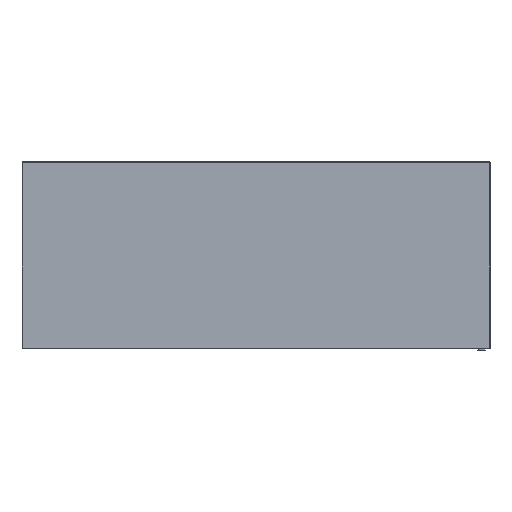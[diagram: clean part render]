
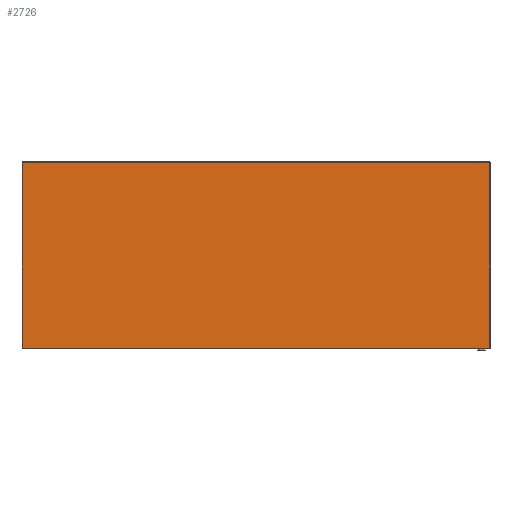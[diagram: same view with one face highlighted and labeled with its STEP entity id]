
A CAD part, top view. The second image highlights one B-rep face of the part: STEP entity #2726.
In plain terms, the highlighted planar face has unit normal (0, 0, 1).
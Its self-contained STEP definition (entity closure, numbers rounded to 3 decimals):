
#450=FACE_OUTER_BOUND('',#620,.T.);
#620=EDGE_LOOP('',(#2021,#2022,#2023,#2024));
#801=LINE('',#4225,#1043);
#820=LINE('',#4271,#1062);
#841=LINE('',#4321,#1083);
#853=LINE('',#4348,#1095);
#1043=VECTOR('',#3316,10.);
#1062=VECTOR('',#3363,10.);
#1083=VECTOR('',#3414,10.);
#1095=VECTOR('',#3450,10.);
#1284=VERTEX_POINT('',#4222);
#1285=VERTEX_POINT('',#4224);
#1298=VERTEX_POINT('',#4270);
#1312=VERTEX_POINT('',#4320);
#1516=EDGE_CURVE('',#1285,#1284,#801,.T.);
#1539=EDGE_CURVE('',#1298,#1285,#820,.T.);
#1564=EDGE_CURVE('',#1312,#1298,#841,.T.);
#1579=EDGE_CURVE('',#1312,#1284,#853,.T.);
#2021=ORIENTED_EDGE('',*,*,#1516,.T.);
#2022=ORIENTED_EDGE('',*,*,#1579,.F.);
#2023=ORIENTED_EDGE('',*,*,#1564,.T.);
#2024=ORIENTED_EDGE('',*,*,#1539,.T.);
#2609=PLANE('',#3000);
#2726=ADVANCED_FACE('',(#450),#2609,.T.);
#3000=AXIS2_PLACEMENT_3D('',#4350,#3453,#3454);
#3316=DIRECTION('',(0.,1.,0.));
#3363=DIRECTION('',(1.,0.,0.));
#3414=DIRECTION('',(0.,-1.,0.));
#3450=DIRECTION('',(1.,0.,0.));
#3453=DIRECTION('center_axis',(0.,0.,1.));
#3454=DIRECTION('ref_axis',(1.,0.,0.));
#4222=CARTESIAN_POINT('',(66.9,750.,0.8));
#4224=CARTESIAN_POINT('',(66.9,-750.4,0.8));
#4225=CARTESIAN_POINT('',(66.9,-375.7,0.8));
#4270=CARTESIAN_POINT('',(-529.9,-750.4,0.8));
#4271=CARTESIAN_POINT('',(-380.7,-750.4,0.8));
#4320=CARTESIAN_POINT('',(-529.9,750.,0.8));
#4321=CARTESIAN_POINT('',(-529.9,374.5,0.8));
#4348=CARTESIAN_POINT('',(68.5,750.,0.8));
#4350=CARTESIAN_POINT('Origin',(-231.5,-1.,0.8));
